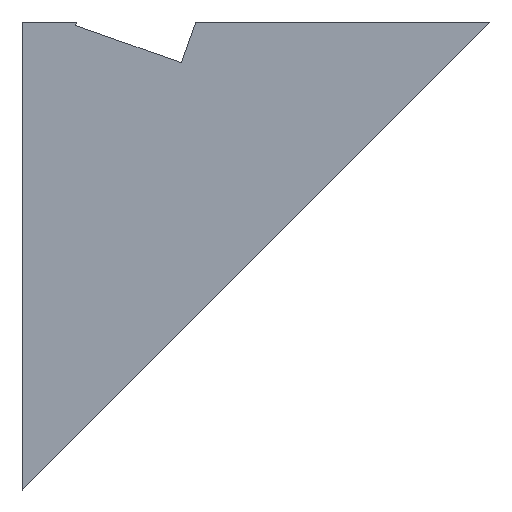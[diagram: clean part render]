
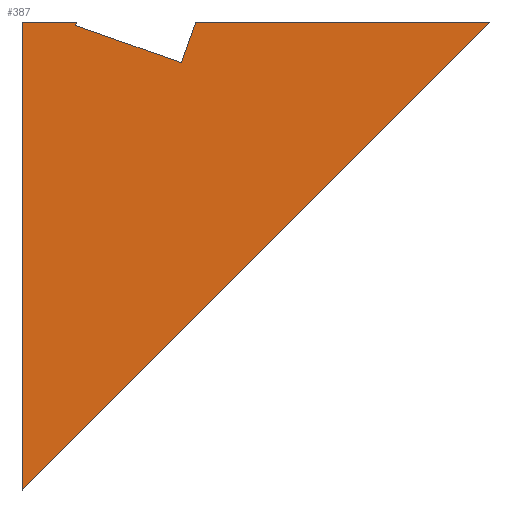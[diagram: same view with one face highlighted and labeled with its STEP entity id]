
A CAD part, top view. The second image highlights one B-rep face of the part: STEP entity #387.
In plain terms, the highlighted planar face has unit normal (0, 0, 1).
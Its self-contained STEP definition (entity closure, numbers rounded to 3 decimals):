
#24 = VERTEX_POINT('',#25);
#25 = CARTESIAN_POINT('',(0.,-125.,12.));
#32 = PLANE('',#33);
#33 = AXIS2_PLACEMENT_3D('',#34,#35,#36);
#34 = CARTESIAN_POINT('',(0.,-125.,0.));
#35 = DIRECTION('',(-1.,0.,0.));
#36 = DIRECTION('',(0.,1.,0.));
#44 = PLANE('',#45);
#45 = AXIS2_PLACEMENT_3D('',#46,#47,#48);
#46 = CARTESIAN_POINT('',(250.,125.,0.));
#47 = DIRECTION('',(0.707,-0.707,0.));
#48 = DIRECTION('',(-0.707,-0.707,0.));
#56 = EDGE_CURVE('',#24,#57,#59,.T.);
#57 = VERTEX_POINT('',#58);
#58 = CARTESIAN_POINT('',(0.,125.,12.));
#59 = SURFACE_CURVE('',#60,(#64,#71),.PCURVE_S1.);
#60 = LINE('',#61,#62);
#61 = CARTESIAN_POINT('',(0.,-125.,12.));
#62 = VECTOR('',#63,1.);
#63 = DIRECTION('',(0.,1.,0.));
#64 = PCURVE('',#32,#65);
#65 = DEFINITIONAL_REPRESENTATION('',(#66),#70);
#66 = LINE('',#67,#68);
#67 = CARTESIAN_POINT('',(0.,-12.));
#68 = VECTOR('',#69,1.);
#69 = DIRECTION('',(1.,0.));
#70 = ( GEOMETRIC_REPRESENTATION_CONTEXT(2) 
PARAMETRIC_REPRESENTATION_CONTEXT() REPRESENTATION_CONTEXT('2D SPACE',''
  ) );
#71 = PCURVE('',#72,#77);
#72 = PLANE('',#73);
#73 = AXIS2_PLACEMENT_3D('',#74,#75,#76);
#74 = CARTESIAN_POINT('',(88.388,36.612,12.));
#75 = DIRECTION('',(-0.,-0.,-1.));
#76 = DIRECTION('',(-1.,0.,0.));
#77 = DEFINITIONAL_REPRESENTATION('',(#78),#82);
#78 = LINE('',#79,#80);
#79 = CARTESIAN_POINT('',(88.388,-161.612));
#80 = VECTOR('',#81,1.);
#81 = DIRECTION('',(0.,1.));
#82 = ( GEOMETRIC_REPRESENTATION_CONTEXT(2) 
PARAMETRIC_REPRESENTATION_CONTEXT() REPRESENTATION_CONTEXT('2D SPACE',''
  ) );
#100 = PLANE('',#101);
#101 = AXIS2_PLACEMENT_3D('',#102,#103,#104);
#102 = CARTESIAN_POINT('',(0.,125.,0.));
#103 = DIRECTION('',(0.,1.,0.));
#104 = DIRECTION('',(1.,0.,0.));
#144 = VERTEX_POINT('',#145);
#145 = CARTESIAN_POINT('',(250.,125.,12.));
#159 = PLANE('',#160);
#160 = AXIS2_PLACEMENT_3D('',#161,#162,#163);
#161 = CARTESIAN_POINT('',(0.,125.,0.));
#162 = DIRECTION('',(0.,1.,0.));
#163 = DIRECTION('',(1.,0.,0.));
#171 = EDGE_CURVE('',#144,#24,#172,.T.);
#172 = SURFACE_CURVE('',#173,(#177,#184),.PCURVE_S1.);
#173 = LINE('',#174,#175);
#174 = CARTESIAN_POINT('',(250.,125.,12.));
#175 = VECTOR('',#176,1.);
#176 = DIRECTION('',(-0.707,-0.707,0.));
#177 = PCURVE('',#44,#178);
#178 = DEFINITIONAL_REPRESENTATION('',(#179),#183);
#179 = LINE('',#180,#181);
#180 = CARTESIAN_POINT('',(0.,-12.));
#181 = VECTOR('',#182,1.);
#182 = DIRECTION('',(1.,0.));
#183 = ( GEOMETRIC_REPRESENTATION_CONTEXT(2) 
PARAMETRIC_REPRESENTATION_CONTEXT() REPRESENTATION_CONTEXT('2D SPACE',''
  ) );
#184 = PCURVE('',#72,#185);
#185 = DEFINITIONAL_REPRESENTATION('',(#186),#190);
#186 = LINE('',#187,#188);
#187 = CARTESIAN_POINT('',(-161.612,88.388));
#188 = VECTOR('',#189,1.);
#189 = DIRECTION('',(0.707,-0.707));
#190 = ( GEOMETRIC_REPRESENTATION_CONTEXT(2) 
PARAMETRIC_REPRESENTATION_CONTEXT() REPRESENTATION_CONTEXT('2D SPACE',''
  ) );
#241 = EDGE_CURVE('',#57,#242,#244,.T.);
#242 = VERTEX_POINT('',#243);
#243 = CARTESIAN_POINT('',(29.191,125.,12.));
#244 = SURFACE_CURVE('',#245,(#249,#256),.PCURVE_S1.);
#245 = LINE('',#246,#247);
#246 = CARTESIAN_POINT('',(0.,125.,12.));
#247 = VECTOR('',#248,1.);
#248 = DIRECTION('',(1.,0.,0.));
#249 = PCURVE('',#100,#250);
#250 = DEFINITIONAL_REPRESENTATION('',(#251),#255);
#251 = LINE('',#252,#253);
#252 = CARTESIAN_POINT('',(0.,-12.));
#253 = VECTOR('',#254,1.);
#254 = DIRECTION('',(1.,0.));
#255 = ( GEOMETRIC_REPRESENTATION_CONTEXT(2) 
PARAMETRIC_REPRESENTATION_CONTEXT() REPRESENTATION_CONTEXT('2D SPACE',''
  ) );
#256 = PCURVE('',#72,#257);
#257 = DEFINITIONAL_REPRESENTATION('',(#258),#262);
#258 = LINE('',#259,#260);
#259 = CARTESIAN_POINT('',(88.388,88.388));
#260 = VECTOR('',#261,1.);
#261 = DIRECTION('',(-1.,0.));
#262 = ( GEOMETRIC_REPRESENTATION_CONTEXT(2) 
PARAMETRIC_REPRESENTATION_CONTEXT() REPRESENTATION_CONTEXT('2D SPACE',''
  ) );
#277 = PLANE('',#278);
#278 = AXIS2_PLACEMENT_3D('',#279,#280,#281);
#279 = CARTESIAN_POINT('',(1815.033,5198.904,36.001)
  );
#280 = DIRECTION('',(0.943,-0.332,0.));
#281 = DIRECTION('',(-0.332,-0.943,0.));
#330 = PLANE('',#331);
#331 = AXIS2_PLACEMENT_3D('',#332,#333,#334);
#332 = CARTESIAN_POINT('',(28.541,123.154,36.001));
#333 = DIRECTION('',(-0.332,-0.943,0.));
#334 = DIRECTION('',(0.,0.,-1.));
#356 = PLANE('',#357);
#357 = AXIS2_PLACEMENT_3D('',#358,#359,#360);
#358 = CARTESIAN_POINT('',(1871.631,5178.983,36.001)
  );
#359 = DIRECTION('',(0.943,-0.332,0.));
#360 = DIRECTION('',(-0.332,-0.943,0.));
#387 = ADVANCED_FACE('',(#388),#72,.F.);
#388 = FACE_BOUND('',#389,.F.);
#389 = EDGE_LOOP('',(#390,#391,#392,#393,#414,#435,#456));
#390 = ORIENTED_EDGE('',*,*,#171,.T.);
#391 = ORIENTED_EDGE('',*,*,#56,.T.);
#392 = ORIENTED_EDGE('',*,*,#241,.T.);
#393 = ORIENTED_EDGE('',*,*,#394,.T.);
#394 = EDGE_CURVE('',#242,#395,#397,.T.);
#395 = VERTEX_POINT('',#396);
#396 = CARTESIAN_POINT('',(28.541,123.154,12.));
#397 = SURFACE_CURVE('',#398,(#402,#408),.PCURVE_S1.);
#398 = LINE('',#399,#400);
#399 = CARTESIAN_POINT('',(911.534,2631.898,12.));
#400 = VECTOR('',#401,1.);
#401 = DIRECTION('',(-0.332,-0.943,0.));
#402 = PCURVE('',#72,#403);
#403 = DEFINITIONAL_REPRESENTATION('',(#404),#407);
#404 = B_SPLINE_CURVE_WITH_KNOTS('',1,(#405,#406),.UNSPECIFIED.,.F.,.F.,
  (2,2),(2657.644,2659.601),
  .PIECEWISE_BEZIER_KNOTS.);
#405 = CARTESIAN_POINT('',(59.198,88.388));
#406 = CARTESIAN_POINT('',(59.847,86.542));
#407 = ( GEOMETRIC_REPRESENTATION_CONTEXT(2) 
PARAMETRIC_REPRESENTATION_CONTEXT() REPRESENTATION_CONTEXT('2D SPACE',''
  ) );
#408 = PCURVE('',#277,#409);
#409 = DEFINITIONAL_REPRESENTATION('',(#410),#413);
#410 = B_SPLINE_CURVE_WITH_KNOTS('',1,(#411,#412),.UNSPECIFIED.,.F.,.F.,
  (2,2),(2657.644,2659.601),
  .PIECEWISE_BEZIER_KNOTS.);
#411 = CARTESIAN_POINT('',(5379.008,24.001));
#412 = CARTESIAN_POINT('',(5380.965,24.001));
#413 = ( GEOMETRIC_REPRESENTATION_CONTEXT(2) 
PARAMETRIC_REPRESENTATION_CONTEXT() REPRESENTATION_CONTEXT('2D SPACE',''
  ) );
#414 = ORIENTED_EDGE('',*,*,#415,.F.);
#415 = EDGE_CURVE('',#416,#395,#418,.T.);
#416 = VERTEX_POINT('',#417);
#417 = CARTESIAN_POINT('',(85.14,103.233,12.));
#418 = SURFACE_CURVE('',#419,(#423,#429),.PCURVE_S1.);
#419 = LINE('',#420,#421);
#420 = CARTESIAN_POINT('',(68.718,109.013,12.));
#421 = VECTOR('',#422,1.);
#422 = DIRECTION('',(-0.943,0.332,0.));
#423 = PCURVE('',#72,#424);
#424 = DEFINITIONAL_REPRESENTATION('',(#425),#428);
#425 = B_SPLINE_CURVE_WITH_KNOTS('',1,(#426,#427),.UNSPECIFIED.,.F.,.F.,
  (2,2),(-17.41,42.592),.PIECEWISE_BEZIER_KNOTS.);
#426 = CARTESIAN_POINT('',(3.249,66.621));
#427 = CARTESIAN_POINT('',(59.847,86.542));
#428 = ( GEOMETRIC_REPRESENTATION_CONTEXT(2) 
PARAMETRIC_REPRESENTATION_CONTEXT() REPRESENTATION_CONTEXT('2D SPACE',''
  ) );
#429 = PCURVE('',#330,#430);
#430 = DEFINITIONAL_REPRESENTATION('',(#431),#434);
#431 = B_SPLINE_CURVE_WITH_KNOTS('',1,(#432,#433),.UNSPECIFIED.,.F.,.F.,
  (2,2),(-17.41,42.592),.PIECEWISE_BEZIER_KNOTS.);
#432 = CARTESIAN_POINT('',(24.001,60.002));
#433 = CARTESIAN_POINT('',(24.001,0.));
#434 = ( GEOMETRIC_REPRESENTATION_CONTEXT(2) 
PARAMETRIC_REPRESENTATION_CONTEXT() REPRESENTATION_CONTEXT('2D SPACE',''
  ) );
#435 = ORIENTED_EDGE('',*,*,#436,.F.);
#436 = EDGE_CURVE('',#437,#416,#439,.T.);
#437 = VERTEX_POINT('',#438);
#438 = CARTESIAN_POINT('',(92.801,125.,12.));
#439 = SURFACE_CURVE('',#440,(#444,#450),.PCURVE_S1.);
#440 = LINE('',#441,#442);
#441 = CARTESIAN_POINT('',(968.133,2611.978,12.));
#442 = VECTOR('',#443,1.);
#443 = DIRECTION('',(-0.332,-0.943,0.));
#444 = PCURVE('',#72,#445);
#445 = DEFINITIONAL_REPRESENTATION('',(#446),#449);
#446 = B_SPLINE_CURVE_WITH_KNOTS('',1,(#447,#448),.UNSPECIFIED.,.F.,.F.,
  (2,2),(2636.525,2659.601),
  .PIECEWISE_BEZIER_KNOTS.);
#447 = CARTESIAN_POINT('',(-4.412,88.388));
#448 = CARTESIAN_POINT('',(3.249,66.621));
#449 = ( GEOMETRIC_REPRESENTATION_CONTEXT(2) 
PARAMETRIC_REPRESENTATION_CONTEXT() REPRESENTATION_CONTEXT('2D SPACE',''
  ) );
#450 = PCURVE('',#356,#451);
#451 = DEFINITIONAL_REPRESENTATION('',(#452),#455);
#452 = B_SPLINE_CURVE_WITH_KNOTS('',1,(#453,#454),.UNSPECIFIED.,.F.,.F.,
  (2,2),(2636.525,2659.601),
  .PIECEWISE_BEZIER_KNOTS.);
#453 = CARTESIAN_POINT('',(5357.89,24.001));
#454 = CARTESIAN_POINT('',(5380.965,24.001));
#455 = ( GEOMETRIC_REPRESENTATION_CONTEXT(2) 
PARAMETRIC_REPRESENTATION_CONTEXT() REPRESENTATION_CONTEXT('2D SPACE',''
  ) );
#456 = ORIENTED_EDGE('',*,*,#457,.T.);
#457 = EDGE_CURVE('',#437,#144,#458,.T.);
#458 = SURFACE_CURVE('',#459,(#463,#470),.PCURVE_S1.);
#459 = LINE('',#460,#461);
#460 = CARTESIAN_POINT('',(0.,125.,12.));
#461 = VECTOR('',#462,1.);
#462 = DIRECTION('',(1.,0.,0.));
#463 = PCURVE('',#72,#464);
#464 = DEFINITIONAL_REPRESENTATION('',(#465),#469);
#465 = LINE('',#466,#467);
#466 = CARTESIAN_POINT('',(88.388,88.388));
#467 = VECTOR('',#468,1.);
#468 = DIRECTION('',(-1.,0.));
#469 = ( GEOMETRIC_REPRESENTATION_CONTEXT(2) 
PARAMETRIC_REPRESENTATION_CONTEXT() REPRESENTATION_CONTEXT('2D SPACE',''
  ) );
#470 = PCURVE('',#159,#471);
#471 = DEFINITIONAL_REPRESENTATION('',(#472),#476);
#472 = LINE('',#473,#474);
#473 = CARTESIAN_POINT('',(0.,-12.));
#474 = VECTOR('',#475,1.);
#475 = DIRECTION('',(1.,0.));
#476 = ( GEOMETRIC_REPRESENTATION_CONTEXT(2) 
PARAMETRIC_REPRESENTATION_CONTEXT() REPRESENTATION_CONTEXT('2D SPACE',''
  ) );
